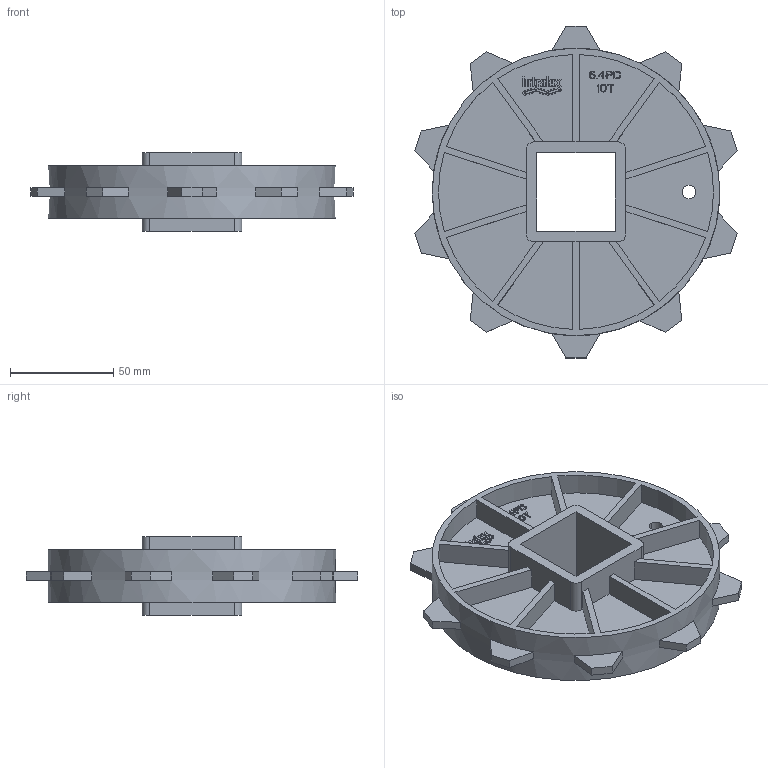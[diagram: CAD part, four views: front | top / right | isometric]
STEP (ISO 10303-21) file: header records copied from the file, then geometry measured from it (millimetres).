
FILE_DESCRIPTION((''),'2;1');
FILE_NAME('S400_SPROCKET_64X15_40_SQ','2008-12-12T',('jmumphre'),(''),'PRO/ENGINEER BY PARAMETRIC TECHNOLOGY CORPORATION, 2008150','PRO/ENGINEER BY PARAMETRIC TECHNOLOGY CORPORATION, 2008150','');
FILE_SCHEMA(('CONFIG_CONTROL_DESIGN'));
Length unit declared in the file: inch
Products named in the file (1): S400_SPROCKET_64X15_40_SQ
Bounding box: 155.61 x 160.42 x 37.85 mm (x, y, z)
Volume: 150868.2 mm3; surface area: 78611.8 mm2
Topology: 1 solids, 1 shells, 594 faces, 1653 edges, 1102 vertices
Faces by surface type: plane 458, cylinder 136
Entity records: 18957 total; most frequent: CARTESIAN_POINT 3349, ORIENTED_EDGE 3306, DIRECTION 3133, EDGE_CURVE 1653, VECTOR 1361, LINE 1361, VERTEX_POINT 1102, AXIS2_PLACEMENT_3D 886
